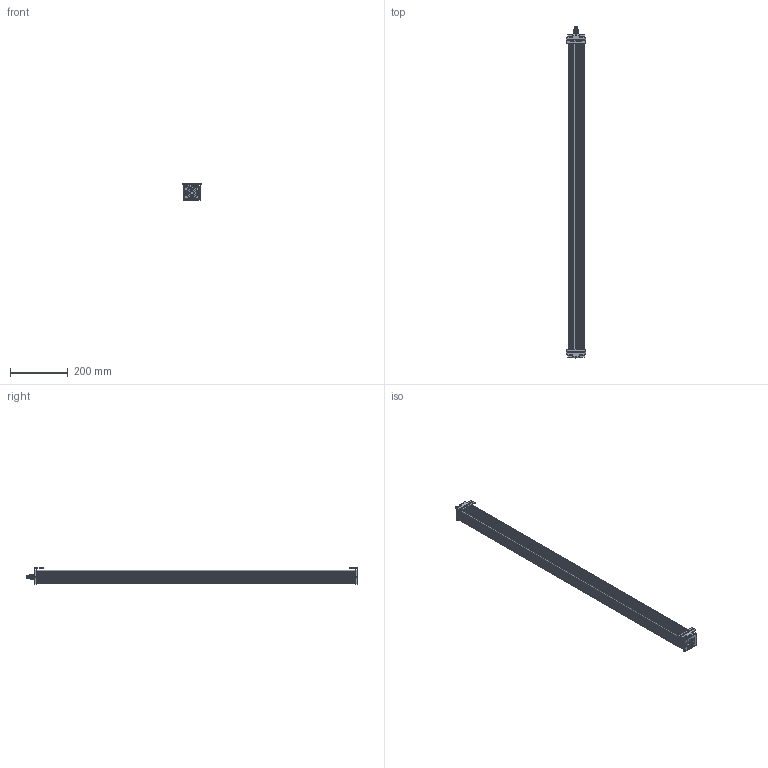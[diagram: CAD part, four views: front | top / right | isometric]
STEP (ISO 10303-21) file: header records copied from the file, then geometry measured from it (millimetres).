
FILE_DESCRIPTION(/* description */ (''),/* implementation_level */ '2;1');
FILE_NAME(/* name */ '1_stp.stp',/* time_stamp */ '2019-10-31T09:56:58+08:00',/* author */ (''),/* organization */ (''),/* preprocessor_version */ 'ST-DEVELOPER v15',/* originating_system */ 'SIEMENS PLM Software NX 8.5',/* authorisation */ '');
FILE_SCHEMA (('AP203_CONFIGURATION_CONTROLLED_3D_DESIGN_OF_MECHANICAL_PARTS_AND_ASSEMBLIES_MIM_LF { 1 0 10303 403 2 1 2}'));
Products named in the file (1): Admi1FACD5077src
Bounding box: 68 x 1148 x 57.86 mm (x, y, z)
Volume: 884147.8 mm3; surface area: 711030.7 mm2
Topology: 23 solids, 23 shells, 8588 faces, 23804 edges, 15618 vertices
Faces by surface type: plane 7476, cylinder 598, cone 210, bspline 154, torus 144, extrusion 6
Entity records: 277057 total; most frequent: CARTESIAN_POINT 57896, ORIENTED_EDGE 47608, DIRECTION 41554, EDGE_CURVE 23804, VECTOR 21764, LINE 21758, VERTEX_POINT 15618, AXIS2_PLACEMENT_3D 9895
